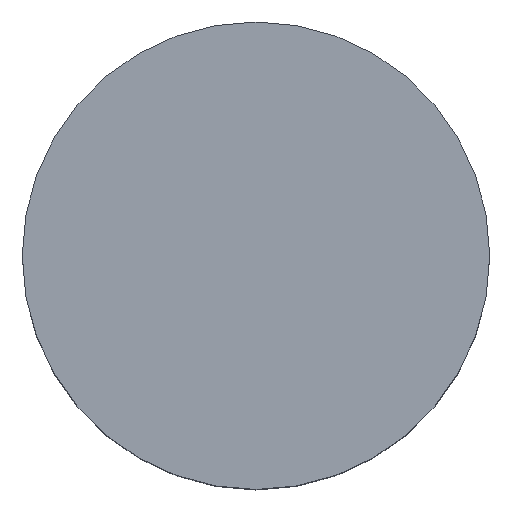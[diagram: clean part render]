
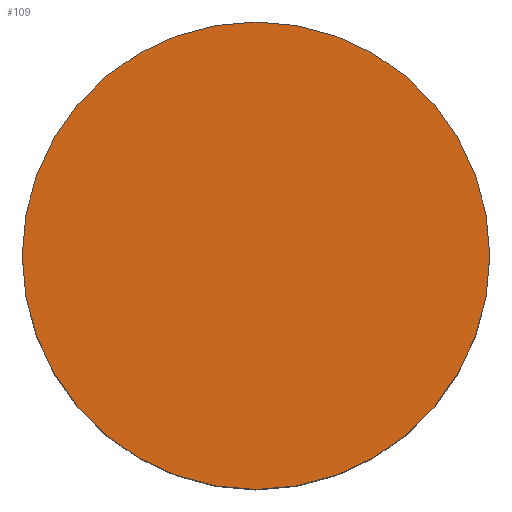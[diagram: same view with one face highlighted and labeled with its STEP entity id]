
A CAD part, top view. The second image highlights one B-rep face of the part: STEP entity #109.
In plain terms, the highlighted planar face has unit normal (0, 0, 1).
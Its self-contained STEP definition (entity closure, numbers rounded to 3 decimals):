
#24 = VERTEX_POINT('',#25);
#25 = CARTESIAN_POINT('',(2.55,4.,14.9));
#32 = CYLINDRICAL_SURFACE('',#33,2.55);
#33 = AXIS2_PLACEMENT_3D('',#34,#35,#36);
#34 = CARTESIAN_POINT('',(0.,4.,11.7));
#35 = DIRECTION('',(-0.,-0.,-1.));
#36 = DIRECTION('',(1.,0.,0.));
#51 = EDGE_CURVE('',#24,#24,#52,.T.);
#52 = SURFACE_CURVE('',#53,(#58,#65),.PCURVE_S1.);
#53 = CIRCLE('',#54,2.55);
#54 = AXIS2_PLACEMENT_3D('',#55,#56,#57);
#55 = CARTESIAN_POINT('',(0.,4.,14.9));
#56 = DIRECTION('',(0.,0.,1.));
#57 = DIRECTION('',(1.,0.,0.));
#58 = PCURVE('',#32,#59);
#59 = DEFINITIONAL_REPRESENTATION('',(#60),#64);
#60 = LINE('',#61,#62);
#61 = CARTESIAN_POINT('',(-0.,-3.2));
#62 = VECTOR('',#63,1.);
#63 = DIRECTION('',(-1.,0.));
#64 = ( GEOMETRIC_REPRESENTATION_CONTEXT(2) 
PARAMETRIC_REPRESENTATION_CONTEXT() REPRESENTATION_CONTEXT('2D SPACE',''
  ) );
#65 = PCURVE('',#66,#71);
#66 = PLANE('',#67);
#67 = AXIS2_PLACEMENT_3D('',#68,#69,#70);
#68 = CARTESIAN_POINT('',(0.,4.,14.9));
#69 = DIRECTION('',(0.,0.,1.));
#70 = DIRECTION('',(1.,0.,-0.));
#71 = DEFINITIONAL_REPRESENTATION('',(#72),#76);
#72 = CIRCLE('',#73,2.55);
#73 = AXIS2_PLACEMENT_2D('',#74,#75);
#74 = CARTESIAN_POINT('',(0.,0.));
#75 = DIRECTION('',(1.,0.));
#76 = ( GEOMETRIC_REPRESENTATION_CONTEXT(2) 
PARAMETRIC_REPRESENTATION_CONTEXT() REPRESENTATION_CONTEXT('2D SPACE',''
  ) );
#109 = ADVANCED_FACE('',(#110),#66,.T.);
#110 = FACE_BOUND('',#111,.T.);
#111 = EDGE_LOOP('',(#112));
#112 = ORIENTED_EDGE('',*,*,#51,.T.);
